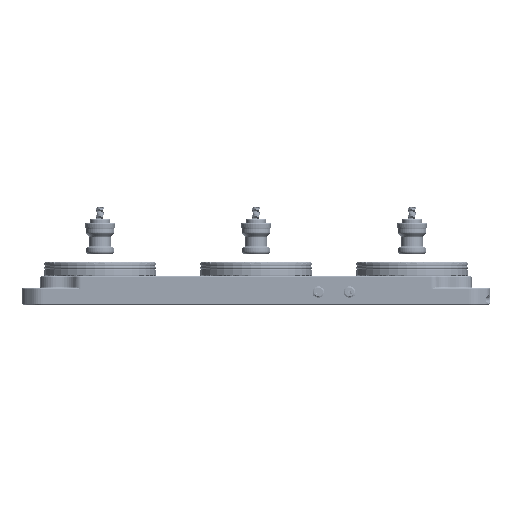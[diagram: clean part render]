
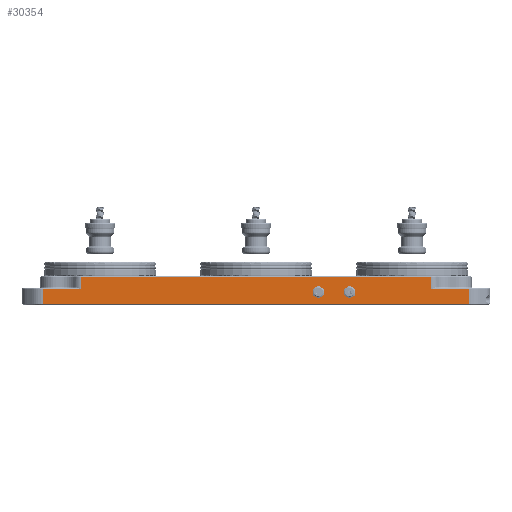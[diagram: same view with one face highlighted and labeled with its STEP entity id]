
A CAD part, front view. The second image highlights one B-rep face of the part: STEP entity #30354.
In plain terms, the highlighted planar face has unit normal (0, -1, 0).
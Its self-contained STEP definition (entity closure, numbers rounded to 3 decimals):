
#25773=PLANE('',#126572);
#30354=ADVANCED_FACE('',(#56963,#56964,#56965),#25773,.F.);
#36591=LINE('',#276484,#42385);
#36594=LINE('',#276492,#42388);
#36596=LINE('',#276499,#42390);
#36959=LINE('',#336055,#42753);
#36962=LINE('',#336061,#42756);
#36966=LINE('',#336080,#42760);
#37135=LINE('',#378391,#42929);
#37136=LINE('',#378392,#42930);
#42385=VECTOR('',#137636,1.);
#42388=VECTOR('',#137643,1.);
#42390=VECTOR('',#137649,1.);
#42753=VECTOR('',#138980,1.);
#42756=VECTOR('',#138985,1.);
#42760=VECTOR('',#139011,1.);
#42929=VECTOR('',#139724,1.);
#42930=VECTOR('',#139725,1.);
#56963=FACE_BOUND('',#62608,.T.);
#56964=FACE_BOUND('',#62609,.T.);
#56965=FACE_BOUND('',#62610,.T.);
#62608=EDGE_LOOP('',(#79410,#79411,#79412,#79413,#79414,#79415,#79416,#79417));
#62609=EDGE_LOOP('',(#79418));
#62610=EDGE_LOOP('',(#79419));
#79410=ORIENTED_EDGE('',*,*,#112645,.T.);
#79411=ORIENTED_EDGE('',*,*,#111519,.T.);
#79412=ORIENTED_EDGE('',*,*,#111523,.T.);
#79413=ORIENTED_EDGE('',*,*,#111526,.T.);
#79414=ORIENTED_EDGE('',*,*,#112646,.T.);
#79415=ORIENTED_EDGE('',*,*,#112254,.T.);
#79416=ORIENTED_EDGE('',*,*,#112244,.T.);
#79417=ORIENTED_EDGE('',*,*,#112241,.T.);
#79418=ORIENTED_EDGE('',*,*,#111417,.T.);
#79419=ORIENTED_EDGE('',*,*,#111419,.T.);
#99870=VERTEX_POINT('',#275181);
#99872=VERTEX_POINT('',#275186);
#99949=VERTEX_POINT('',#276483);
#99950=VERTEX_POINT('',#276485);
#99952=VERTEX_POINT('',#276491);
#99955=VERTEX_POINT('',#276498);
#100473=VERTEX_POINT('',#336052);
#100474=VERTEX_POINT('',#336054);
#100475=VERTEX_POINT('',#336058);
#100479=VERTEX_POINT('',#336075);
#111417=EDGE_CURVE('',#99870,#99870,#121830,.T.);
#111419=EDGE_CURVE('',#99872,#99872,#121832,.T.);
#111519=EDGE_CURVE('',#99950,#99949,#36591,.T.);
#111523=EDGE_CURVE('',#99949,#99952,#36594,.T.);
#111526=EDGE_CURVE('',#99952,#99955,#36596,.T.);
#112241=EDGE_CURVE('',#100473,#100474,#36959,.T.);
#112244=EDGE_CURVE('',#100475,#100473,#36962,.T.);
#112254=EDGE_CURVE('',#100479,#100475,#36966,.T.);
#112645=EDGE_CURVE('',#100474,#99950,#37135,.T.);
#112646=EDGE_CURVE('',#99955,#100479,#37136,.T.);
#121830=CIRCLE('',#125714,5.25);
#121832=CIRCLE('',#125717,5.25);
#125714=AXIS2_PLACEMENT_3D('',#275180,#137427,#137428);
#125717=AXIS2_PLACEMENT_3D('',#275185,#137433,#137434);
#126572=AXIS2_PLACEMENT_3D('',#378393,#139726,#139727);
#137427=DIRECTION('',(0.,1.,0.));
#137428=DIRECTION('',(-1.,0.,0.));
#137433=DIRECTION('',(0.,1.,0.));
#137434=DIRECTION('',(-1.,0.,0.));
#137636=DIRECTION('',(0.,0.,-1.));
#137643=DIRECTION('',(-1.,0.,0.));
#137649=DIRECTION('',(0.,0.,-1.));
#138980=DIRECTION('',(0.,0.,1.));
#138985=DIRECTION('',(-1.,0.,0.));
#139011=DIRECTION('',(0.,0.,1.));
#139724=DIRECTION('',(-1.,0.,0.));
#139725=DIRECTION('',(1.,0.,0.));
#139726=DIRECTION('',(0.,1.,0.));
#139727=DIRECTION('',(-1.,0.,0.));
#275180=CARTESIAN_POINT('',(274.4,-14.,-36.5));
#275181=CARTESIAN_POINT('',(269.15,-14.,-36.5));
#275185=CARTESIAN_POINT('',(314.4,-14.,-36.5));
#275186=CARTESIAN_POINT('',(309.15,-14.,-36.5));
#276483=CARTESIAN_POINT('',(-29.617,-14.,-32.5));
#276484=CARTESIAN_POINT('',(-29.617,-14.,-17.5));
#276485=CARTESIAN_POINT('',(-29.617,-14.,-17.5));
#276491=CARTESIAN_POINT('',(-78.315,-14.,-32.5));
#276492=CARTESIAN_POINT('',(494.4,-14.,-32.5));
#276498=CARTESIAN_POINT('',(-78.316,-14.,-51.5));
#276499=CARTESIAN_POINT('',(-78.316,-14.,-32.5));
#336052=CARTESIAN_POINT('',(418.417,-14.,-32.5));
#336054=CARTESIAN_POINT('',(418.417,-14.,-17.5));
#336055=CARTESIAN_POINT('',(418.417,-14.,-32.5));
#336058=CARTESIAN_POINT('',(467.116,-14.,-32.5));
#336061=CARTESIAN_POINT('',(494.4,-14.,-32.5));
#336075=CARTESIAN_POINT('',(467.116,-14.,-51.5));
#336080=CARTESIAN_POINT('',(467.116,-14.,-51.5));
#378391=CARTESIAN_POINT('',(418.417,-14.,-17.5));
#378392=CARTESIAN_POINT('',(-78.316,-14.,-51.5));
#378393=CARTESIAN_POINT('',(494.4,-14.,-43.));
